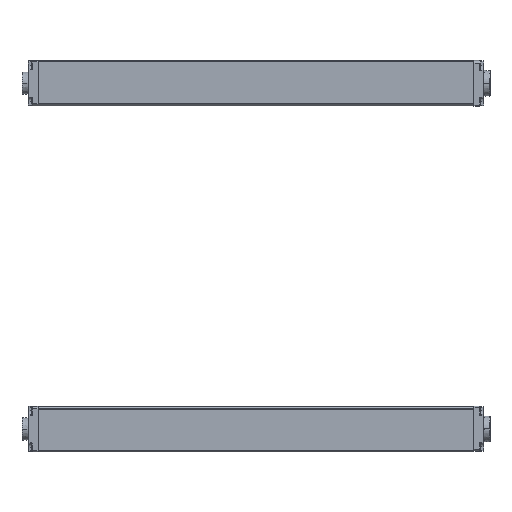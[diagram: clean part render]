
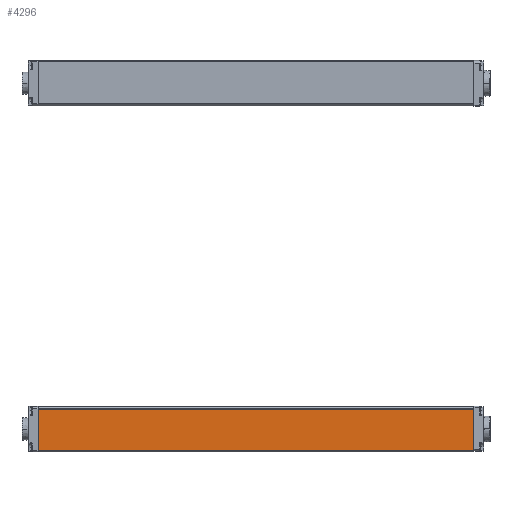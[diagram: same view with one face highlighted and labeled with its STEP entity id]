
A CAD part, left-side view. The second image highlights one B-rep face of the part: STEP entity #4296.
In plain terms, the highlighted planar face has unit normal (-1, 0, -0.009) as drawn and (1, 0, 0) by its records, which use the part's own axes.
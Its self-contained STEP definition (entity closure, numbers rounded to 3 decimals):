
#448 = EDGE_LOOP ( 'NONE', ( #4897, #11532, #4513, #11766 ) ) ;
#1979 = VERTEX_POINT ( 'NONE', #5764 ) ;
#2454 = DIRECTION ( 'NONE',  ( -1., 0., 0. ) ) ;
#2477 = DIRECTION ( 'NONE',  ( 0., 1., 0. ) ) ;
#3032 = DIRECTION ( 'NONE',  ( 0., -1., 0. ) ) ;
#3820 = FACE_OUTER_BOUND ( 'NONE', #448, .T. ) ;
#4064 = EDGE_CURVE ( 'NONE', #1979, #6685, #6028, .T. ) ;
#4296 = ADVANCED_FACE ( 'NONE', ( #3820 ), #9383, .F. ) ;
#4513 = ORIENTED_EDGE ( 'NONE', *, *, #4064, .F. ) ;
#4897 = ORIENTED_EDGE ( 'NONE', *, *, #5931, .T. ) ;
#4924 = CARTESIAN_POINT ( 'NONE',  ( 15., 0., -16.693 ) ) ;
#5549 = CARTESIAN_POINT ( 'NONE',  ( 15., 0., 10.9 ) ) ;
#5764 = CARTESIAN_POINT ( 'NONE',  ( 15., 290., 10.9 ) ) ;
#5931 = EDGE_CURVE ( 'NONE', #7691, #17066, #7240, .T. ) ;
#6028 = LINE ( 'NONE', #11592, #17235 ) ;
#6685 = VERTEX_POINT ( 'NONE', #12468 ) ;
#7145 = EDGE_CURVE ( 'NONE', #1979, #7691, #9968, .T. ) ;
#7240 = LINE ( 'NONE', #11423, #14934 ) ;
#7691 = VERTEX_POINT ( 'NONE', #5549 ) ;
#8035 = DIRECTION ( 'NONE',  ( 0., 0., 1. ) ) ;
#9061 = EDGE_CURVE ( 'NONE', #17066, #6685, #9403, .T. ) ;
#9383 = PLANE ( 'NONE',  #16090 ) ;
#9403 = LINE ( 'NONE', #14956, #12097 ) ;
#9968 = LINE ( 'NONE', #15517, #15401 ) ;
#11423 = CARTESIAN_POINT ( 'NONE',  ( 15., 0., -16.9 ) ) ;
#11532 = ORIENTED_EDGE ( 'NONE', *, *, #9061, .T. ) ;
#11592 = CARTESIAN_POINT ( 'NONE',  ( 15., 290., -16.9 ) ) ;
#11766 = ORIENTED_EDGE ( 'NONE', *, *, #7145, .T. ) ;
#12097 = VECTOR ( 'NONE', #2477, 1000. ) ;
#12468 = CARTESIAN_POINT ( 'NONE',  ( 15., 290., -16.693 ) ) ;
#14933 = CARTESIAN_POINT ( 'NONE',  ( 15., 290., -16.9 ) ) ;
#14934 = VECTOR ( 'NONE', #16958, 1000. ) ;
#14956 = CARTESIAN_POINT ( 'NONE',  ( 15., 290., -16.693 ) ) ;
#15401 = VECTOR ( 'NONE', #3032, 1000. ) ;
#15517 = CARTESIAN_POINT ( 'NONE',  ( 15., 290., 10.9 ) ) ;
#16090 = AXIS2_PLACEMENT_3D ( 'NONE', #14933, #2454, #8035 ) ;
#16958 = DIRECTION ( 'NONE',  ( 0., 0., -1. ) ) ;
#17066 = VERTEX_POINT ( 'NONE', #4924 ) ;
#17137 = DIRECTION ( 'NONE',  ( 0., 0., -1. ) ) ;
#17235 = VECTOR ( 'NONE', #17137, 1000. ) ;
